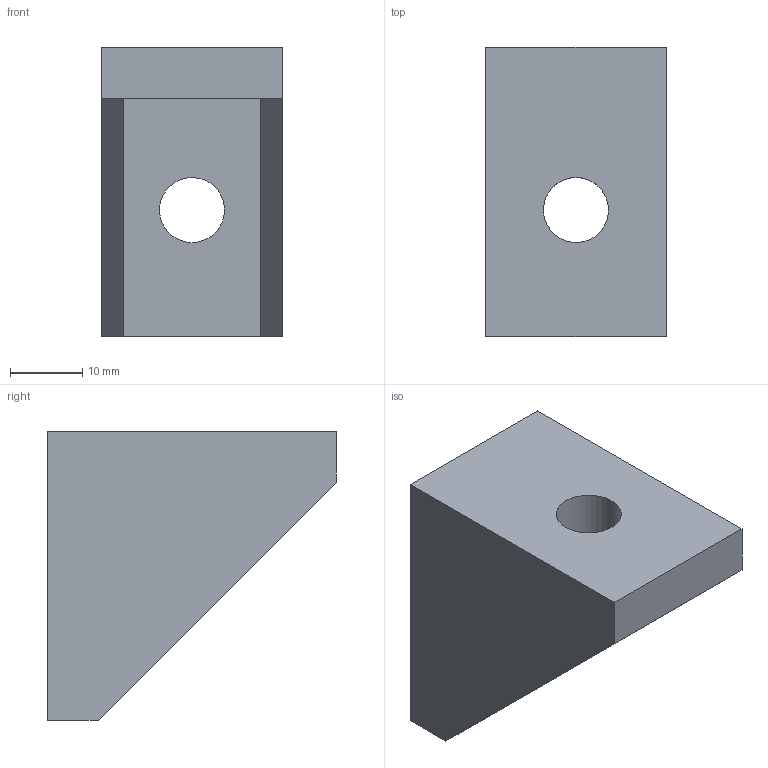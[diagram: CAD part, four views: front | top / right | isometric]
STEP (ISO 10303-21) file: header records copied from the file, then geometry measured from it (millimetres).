
FILE_DESCRIPTION(/* description */ (' PTC IGES file: 30.igs '),/* implementation_level */ '2;1');
FILE_NAME(/* name */ 'C:\Users\OMISTAJA\Desktop\Kiinnikkeet\1.3019 Kulma 25 T.stp',/* time_stamp */ '2020-10-05T14:09:28+03:00',/* author */ ('OMISTAJA'),/* organization */ ('Unknown'),/* preprocessor_version */ 'ST-DEVELOPER v18',/* originating_system */ 'Autodesk Inventor 2020',/* authorisation */ '');
FILE_SCHEMA (('AUTOMOTIVE_DESIGN { 1 0 10303 214 3 1 1 }'));
Length unit declared in the file: millimetre
Products named in the file (1): 1.3019 Kulma 25 T
Bounding box: 25 x 40 x 40 mm (x, y, z)
Volume: 15151.4 mm3; surface area: 7225.4 mm2
Topology: 1 solids, 1 shells, 14 faces, 36 edges, 24 vertices
Faces by surface type: plane 12, cylinder 2
Full cylindrical faces by diameter (mm): 9 x2
Entity records: 477 total; most frequent: CARTESIAN_POINT 75, DIRECTION 74, ORIENTED_EDGE 72, EDGE_CURVE 36, LINE 28, VECTOR 28, VERTEX_POINT 24, AXIS2_PLACEMENT_3D 23
